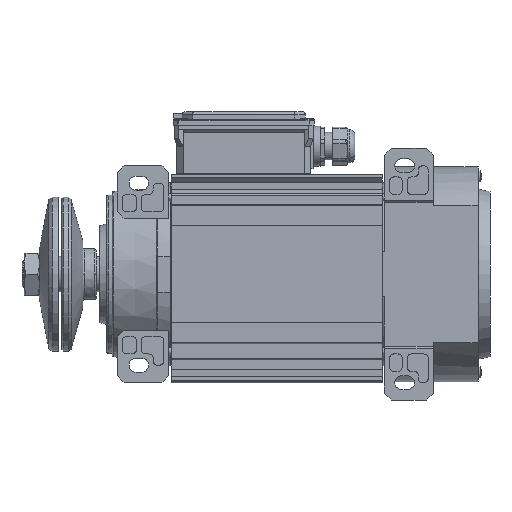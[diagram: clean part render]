
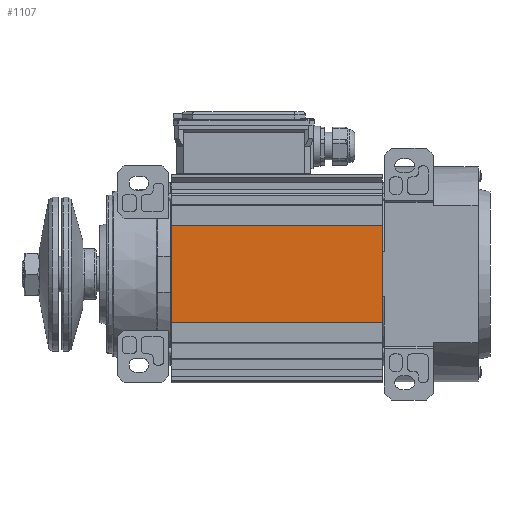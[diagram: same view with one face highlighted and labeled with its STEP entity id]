
A CAD part, front view. The second image highlights one B-rep face of the part: STEP entity #1107.
In plain terms, the highlighted planar face has unit normal (0, 1, 0).
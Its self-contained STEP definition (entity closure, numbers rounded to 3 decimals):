
#37 = EDGE_CURVE ( 'NONE', #16825, #17025, #23140, .T. ) ;
#1107 = ADVANCED_FACE ( 'NONE', ( #29018 ), #37211, .F. ) ;
#1658 = CARTESIAN_POINT ( 'NONE',  ( -151., -64.5, 0. ) ) ;
#1666 = DIRECTION ( 'NONE',  ( 0., 0., 1. ) ) ;
#2124 = EDGE_CURVE ( 'NONE', #17105, #17195, #40848, .T. ) ;
#2144 = EDGE_CURVE ( 'NONE', #17025, #17105, #40887, .T. ) ;
#2183 = EDGE_CURVE ( 'NONE', #16825, #17195, #41009, .T. ) ;
#16825 = VERTEX_POINT ( 'NONE', #38176 ) ;
#17025 = VERTEX_POINT ( 'NONE', #38215 ) ;
#17105 = VERTEX_POINT ( 'NONE', #38306 ) ;
#17195 = VERTEX_POINT ( 'NONE', #38373 ) ;
#21133 = EDGE_LOOP ( 'NONE', ( #25120, #25075, #25076, #25100 ) ) ;
#23140 = LINE ( 'NONE', #1658, #23210 ) ;
#23210 = VECTOR ( 'NONE', #1666, 1000. ) ;
#25075 = ORIENTED_EDGE ( 'NONE', *, *, #2124, .T. ) ;
#25076 = ORIENTED_EDGE ( 'NONE', *, *, #2183, .F. ) ;
#25100 = ORIENTED_EDGE ( 'NONE', *, *, #37, .T. ) ;
#25120 = ORIENTED_EDGE ( 'NONE', *, *, #2144, .T. ) ;
#29018 = FACE_OUTER_BOUND ( 'NONE', #21133, .T. ) ;
#31151 = AXIS2_PLACEMENT_3D ( 'NONE', #37216, #37222, #37223 ) ;
#37211 = PLANE ( 'NONE',  #31151 ) ;
#37216 = CARTESIAN_POINT ( 'NONE',  ( -0.5, -64.5, 0. ) ) ;
#37222 = DIRECTION ( 'NONE',  ( 0., -1., 0. ) ) ;
#37223 = DIRECTION ( 'NONE',  ( 0., 0., -1. ) ) ;
#38176 = CARTESIAN_POINT ( 'NONE',  ( -151., -64.5, -34.731 ) ) ;
#38215 = CARTESIAN_POINT ( 'NONE',  ( -151., -64.5, 34.731 ) ) ;
#38306 = CARTESIAN_POINT ( 'NONE',  ( 0., -64.5, 34.731 ) ) ;
#38373 = CARTESIAN_POINT ( 'NONE',  ( 0., -64.5, -34.731 ) ) ;
#40848 = LINE ( 'NONE', #42575, #40855 ) ;
#40855 = VECTOR ( 'NONE', #42598, 1000. ) ;
#40887 = LINE ( 'NONE', #42755, #40915 ) ;
#40915 = VECTOR ( 'NONE', #42759, 1000. ) ;
#40987 = VECTOR ( 'NONE', #43005, 1000. ) ;
#41009 = LINE ( 'NONE', #43006, #40987 ) ;
#42575 = CARTESIAN_POINT ( 'NONE',  ( 0., -64.5, 0. ) ) ;
#42598 = DIRECTION ( 'NONE',  ( 0., 0., -1. ) ) ;
#42755 = CARTESIAN_POINT ( 'NONE',  ( 0., -64.5, 34.731 ) ) ;
#42759 = DIRECTION ( 'NONE',  ( 1., 0., 0. ) ) ;
#43005 = DIRECTION ( 'NONE',  ( 1., 0., 0. ) ) ;
#43006 = CARTESIAN_POINT ( 'NONE',  ( -0.5, -64.5, -34.731 ) ) ;
